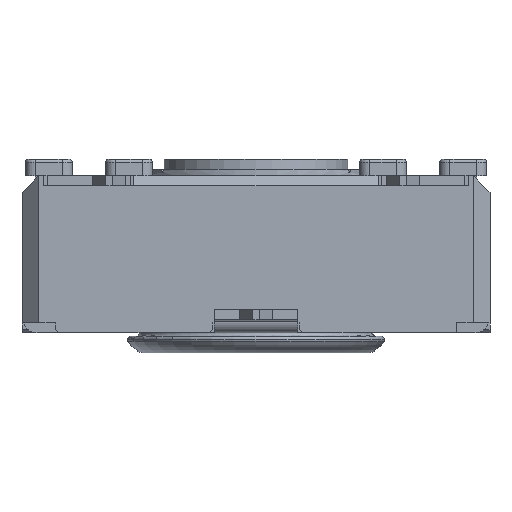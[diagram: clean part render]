
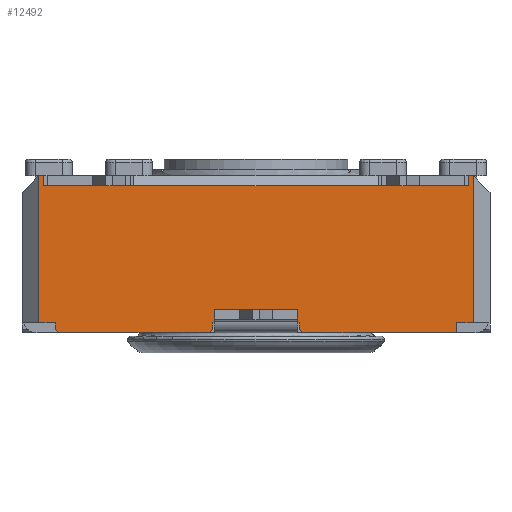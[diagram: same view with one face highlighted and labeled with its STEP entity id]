
A CAD part, front view. The second image highlights one B-rep face of the part: STEP entity #12492.
In plain terms, the highlighted planar face has unit normal (0, -1, 0).
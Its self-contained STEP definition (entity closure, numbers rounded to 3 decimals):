
#651=FACE_OUTER_BOUND('',#1317,.T.);
#1317=EDGE_LOOP('',(#8301,#8302,#8303,#8304,#8305,#8306,#8307,#8308,#8309,
#8310,#8311,#8312,#8313,#8314,#8315,#8316,#8317,#8318,#8319,#8320,#8321,
#8322,#8323,#8324,#8325,#8326,#8327));
#1994=LINE('',#17769,#3471);
#2003=LINE('',#17795,#3480);
#2008=LINE('',#17805,#3485);
#2088=LINE('',#17970,#3565);
#2113=LINE('',#18021,#3590);
#2139=LINE('',#18085,#3616);
#2140=LINE('',#18087,#3617);
#2141=LINE('',#18089,#3618);
#2142=LINE('',#18090,#3619);
#2143=LINE('',#18092,#3620);
#2144=LINE('',#18094,#3621);
#2145=LINE('',#18096,#3622);
#2146=LINE('',#18098,#3623);
#2147=LINE('',#18099,#3624);
#2148=LINE('',#18101,#3625);
#2149=LINE('',#18103,#3626);
#2150=LINE('',#18105,#3627);
#2151=LINE('',#18107,#3628);
#2152=LINE('',#18109,#3629);
#2153=LINE('',#18111,#3630);
#2154=LINE('',#18113,#3631);
#2155=LINE('',#18115,#3632);
#2156=LINE('',#18117,#3633);
#2157=LINE('',#18118,#3634);
#2158=LINE('',#18120,#3635);
#2159=LINE('',#18122,#3636);
#2160=LINE('',#18123,#3637);
#3471=VECTOR('',#14254,10.);
#3480=VECTOR('',#14285,10.);
#3485=VECTOR('',#14290,10.);
#3565=VECTOR('',#14398,10.);
#3590=VECTOR('',#14439,10.);
#3616=VECTOR('',#14487,10.);
#3617=VECTOR('',#14488,10.);
#3618=VECTOR('',#14489,10.);
#3619=VECTOR('',#14490,10.);
#3620=VECTOR('',#14491,10.);
#3621=VECTOR('',#14492,10.);
#3622=VECTOR('',#14493,10.);
#3623=VECTOR('',#14494,10.);
#3624=VECTOR('',#14495,10.);
#3625=VECTOR('',#14496,10.);
#3626=VECTOR('',#14497,10.);
#3627=VECTOR('',#14498,10.);
#3628=VECTOR('',#14499,10.);
#3629=VECTOR('',#14500,10.);
#3630=VECTOR('',#14501,10.);
#3631=VECTOR('',#14502,10.);
#3632=VECTOR('',#14503,10.);
#3633=VECTOR('',#14504,10.);
#3634=VECTOR('',#14505,10.);
#3635=VECTOR('',#14506,10.);
#3636=VECTOR('',#14507,10.);
#3637=VECTOR('',#14508,10.);
#4940=VERTEX_POINT('',#17749);
#4947=VERTEX_POINT('',#17768);
#4953=VERTEX_POINT('',#17794);
#4957=VERTEX_POINT('',#17802);
#4958=VERTEX_POINT('',#17804);
#5011=VERTEX_POINT('',#17918);
#5029=VERTEX_POINT('',#17969);
#5046=VERTEX_POINT('',#18018);
#5047=VERTEX_POINT('',#18020);
#5074=VERTEX_POINT('',#18084);
#5075=VERTEX_POINT('',#18086);
#5076=VERTEX_POINT('',#18088);
#5077=VERTEX_POINT('',#18091);
#5078=VERTEX_POINT('',#18093);
#5079=VERTEX_POINT('',#18095);
#5080=VERTEX_POINT('',#18097);
#5081=VERTEX_POINT('',#18100);
#5082=VERTEX_POINT('',#18102);
#5083=VERTEX_POINT('',#18104);
#5084=VERTEX_POINT('',#18106);
#5085=VERTEX_POINT('',#18108);
#5086=VERTEX_POINT('',#18110);
#5087=VERTEX_POINT('',#18112);
#5088=VERTEX_POINT('',#18114);
#5089=VERTEX_POINT('',#18116);
#5090=VERTEX_POINT('',#18119);
#5091=VERTEX_POINT('',#18121);
#6171=EDGE_CURVE('',#4940,#4947,#1994,.T.);
#6184=EDGE_CURVE('',#4953,#4940,#2003,.T.);
#6189=EDGE_CURVE('',#4958,#4957,#2008,.T.);
#6271=EDGE_CURVE('',#5029,#5011,#2088,.T.);
#6296=EDGE_CURVE('',#5047,#5046,#2113,.T.);
#6328=EDGE_CURVE('',#5011,#5074,#2139,.T.);
#6329=EDGE_CURVE('',#5074,#5075,#2140,.T.);
#6330=EDGE_CURVE('',#5075,#5076,#2141,.T.);
#6331=EDGE_CURVE('',#4958,#5076,#2142,.T.);
#6332=EDGE_CURVE('',#4957,#5077,#2143,.T.);
#6333=EDGE_CURVE('',#5078,#5077,#2144,.T.);
#6334=EDGE_CURVE('',#5078,#5079,#2145,.T.);
#6335=EDGE_CURVE('',#5080,#5079,#2146,.T.);
#6336=EDGE_CURVE('',#4953,#5080,#2147,.T.);
#6337=EDGE_CURVE('',#4947,#5081,#2148,.T.);
#6338=EDGE_CURVE('',#5081,#5082,#2149,.T.);
#6339=EDGE_CURVE('',#5083,#5082,#2150,.T.);
#6340=EDGE_CURVE('',#5083,#5084,#2151,.T.);
#6341=EDGE_CURVE('',#5084,#5085,#2152,.T.);
#6342=EDGE_CURVE('',#5085,#5086,#2153,.T.);
#6343=EDGE_CURVE('',#5087,#5086,#2154,.T.);
#6344=EDGE_CURVE('',#5087,#5088,#2155,.T.);
#6345=EDGE_CURVE('',#5088,#5089,#2156,.T.);
#6346=EDGE_CURVE('',#5089,#5047,#2157,.T.);
#6347=EDGE_CURVE('',#5046,#5090,#2158,.T.);
#6348=EDGE_CURVE('',#5091,#5090,#2159,.T.);
#6349=EDGE_CURVE('',#5091,#5029,#2160,.T.);
#8301=ORIENTED_EDGE('',*,*,#6271,.T.);
#8302=ORIENTED_EDGE('',*,*,#6328,.T.);
#8303=ORIENTED_EDGE('',*,*,#6329,.T.);
#8304=ORIENTED_EDGE('',*,*,#6330,.T.);
#8305=ORIENTED_EDGE('',*,*,#6331,.F.);
#8306=ORIENTED_EDGE('',*,*,#6189,.T.);
#8307=ORIENTED_EDGE('',*,*,#6332,.T.);
#8308=ORIENTED_EDGE('',*,*,#6333,.F.);
#8309=ORIENTED_EDGE('',*,*,#6334,.T.);
#8310=ORIENTED_EDGE('',*,*,#6335,.F.);
#8311=ORIENTED_EDGE('',*,*,#6336,.F.);
#8312=ORIENTED_EDGE('',*,*,#6184,.T.);
#8313=ORIENTED_EDGE('',*,*,#6171,.T.);
#8314=ORIENTED_EDGE('',*,*,#6337,.T.);
#8315=ORIENTED_EDGE('',*,*,#6338,.T.);
#8316=ORIENTED_EDGE('',*,*,#6339,.F.);
#8317=ORIENTED_EDGE('',*,*,#6340,.T.);
#8318=ORIENTED_EDGE('',*,*,#6341,.T.);
#8319=ORIENTED_EDGE('',*,*,#6342,.T.);
#8320=ORIENTED_EDGE('',*,*,#6343,.F.);
#8321=ORIENTED_EDGE('',*,*,#6344,.T.);
#8322=ORIENTED_EDGE('',*,*,#6345,.T.);
#8323=ORIENTED_EDGE('',*,*,#6346,.T.);
#8324=ORIENTED_EDGE('',*,*,#6296,.T.);
#8325=ORIENTED_EDGE('',*,*,#6347,.T.);
#8326=ORIENTED_EDGE('',*,*,#6348,.F.);
#8327=ORIENTED_EDGE('',*,*,#6349,.T.);
#11783=PLANE('',#13204);
#12492=ADVANCED_FACE('',(#651),#11783,.T.);
#13204=AXIS2_PLACEMENT_3D('',#18083,#14485,#14486);
#14254=DIRECTION('',(1.,0.,0.));
#14285=DIRECTION('',(1.,0.,0.));
#14290=DIRECTION('',(1.,0.,0.));
#14398=DIRECTION('',(-1.,0.,0.));
#14439=DIRECTION('',(-1.,0.,0.));
#14485=DIRECTION('center_axis',(0.,-1.,0.));
#14486=DIRECTION('ref_axis',(0.,0.,-1.));
#14487=DIRECTION('',(-1.,0.,0.));
#14488=DIRECTION('',(0.,0.,1.));
#14489=DIRECTION('',(-1.,0.,0.));
#14490=DIRECTION('',(0.,0.,1.));
#14491=DIRECTION('',(0.,0.,-1.));
#14492=DIRECTION('',(-0.707,0.,0.707));
#14493=DIRECTION('',(1.,0.,0.));
#14494=DIRECTION('',(-0.707,0.,-0.707));
#14495=DIRECTION('',(0.,0.,-1.));
#14496=DIRECTION('',(1.,0.,0.));
#14497=DIRECTION('',(0.,0.,-1.));
#14498=DIRECTION('',(-0.707,0.,0.707));
#14499=DIRECTION('',(1.,0.,0.));
#14500=DIRECTION('',(0.,0.,1.));
#14501=DIRECTION('',(1.,0.,0.));
#14502=DIRECTION('',(0.,0.,-1.));
#14503=DIRECTION('',(-1.,0.,0.));
#14504=DIRECTION('',(0.,0.,-1.));
#14505=DIRECTION('',(-1.,0.,0.));
#14506=DIRECTION('',(-1.,0.,0.));
#14507=DIRECTION('',(1.,0.,0.));
#14508=DIRECTION('',(-1.,0.,0.));
#17749=CARTESIAN_POINT('',(-8.717,-9.898,0.));
#17768=CARTESIAN_POINT('',(-6.217,-9.898,0.));
#17769=CARTESIAN_POINT('',(-14.467,-9.898,0.));
#17794=CARTESIAN_POINT('',(-8.767,-9.898,0.));
#17795=CARTESIAN_POINT('',(-14.467,-9.898,0.));
#17802=CARTESIAN_POINT('',(-13.467,-9.898,0.));
#17804=CARTESIAN_POINT('',(-13.967,-9.898,0.));
#17805=CARTESIAN_POINT('',(-7.245,-9.898,0.));
#17918=CARTESIAN_POINT('',(-13.717,-9.898,4.1));
#17969=CARTESIAN_POINT('',(-11.217,-9.898,4.1));
#17970=CARTESIAN_POINT('',(-6.341,-9.898,4.1));
#18018=CARTESIAN_POINT('',(-3.717,-9.898,4.1));
#18020=CARTESIAN_POINT('',(-1.217,-9.898,4.1));
#18021=CARTESIAN_POINT('',(-1.593,-9.898,4.1));
#18083=CARTESIAN_POINT('Origin',(-0.467,-9.898,0.));
#18084=CARTESIAN_POINT('',(-13.817,-9.898,4.1));
#18085=CARTESIAN_POINT('',(-3.944,-9.898,4.1));
#18086=CARTESIAN_POINT('',(-13.817,-9.898,4.4));
#18087=CARTESIAN_POINT('',(-13.817,-9.898,2.2));
#18088=CARTESIAN_POINT('',(-13.967,-9.898,4.4));
#18089=CARTESIAN_POINT('',(-14.467,-9.898,4.4));
#18090=CARTESIAN_POINT('',(-13.967,-9.898,0.));
#18091=CARTESIAN_POINT('',(-13.467,-9.898,-0.2));
#18092=CARTESIAN_POINT('',(-13.467,-9.898,-0.15));
#18093=CARTESIAN_POINT('',(-13.367,-9.898,-0.3));
#18094=CARTESIAN_POINT('',(-10.242,-9.898,-3.425));
#18095=CARTESIAN_POINT('',(-8.867,-9.898,-0.3));
#18096=CARTESIAN_POINT('',(-0.467,-9.898,-0.3));
#18097=CARTESIAN_POINT('',(-8.767,-9.898,-0.2));
#18098=CARTESIAN_POINT('',(-6.667,-9.898,1.9));
#18099=CARTESIAN_POINT('',(-8.767,-9.898,0.));
#18100=CARTESIAN_POINT('',(-6.167,-9.898,0.));
#18101=CARTESIAN_POINT('',(-14.467,-9.898,0.));
#18102=CARTESIAN_POINT('',(-6.167,-9.898,-0.2));
#18103=CARTESIAN_POINT('',(-6.167,-9.898,0.));
#18104=CARTESIAN_POINT('',(-6.067,-9.898,-0.3));
#18105=CARTESIAN_POINT('',(-4.767,-9.898,-1.6));
#18106=CARTESIAN_POINT('',(-1.467,-9.898,-0.3));
#18107=CARTESIAN_POINT('',(-0.467,-9.898,-0.3));
#18108=CARTESIAN_POINT('',(-1.467,-9.898,0.));
#18109=CARTESIAN_POINT('',(-1.467,-9.898,-0.15));
#18110=CARTESIAN_POINT('',(-0.967,-9.898,0.));
#18111=CARTESIAN_POINT('',(-0.646,-9.898,0.));
#18112=CARTESIAN_POINT('',(-0.967,-9.898,4.4));
#18113=CARTESIAN_POINT('',(-0.967,-9.898,0.));
#18114=CARTESIAN_POINT('',(-1.117,-9.898,4.4));
#18115=CARTESIAN_POINT('',(-14.467,-9.898,4.4));
#18116=CARTESIAN_POINT('',(-1.117,-9.898,4.1));
#18117=CARTESIAN_POINT('',(-1.117,-9.898,2.2));
#18118=CARTESIAN_POINT('',(-1.862,-9.898,4.1));
#18119=CARTESIAN_POINT('',(-3.817,-9.898,4.1));
#18120=CARTESIAN_POINT('',(-1.862,-9.898,4.1));
#18121=CARTESIAN_POINT('',(-11.117,-9.898,4.1));
#18122=CARTESIAN_POINT('',(-3.967,-9.898,4.1));
#18123=CARTESIAN_POINT('',(-3.944,-9.898,4.1));
